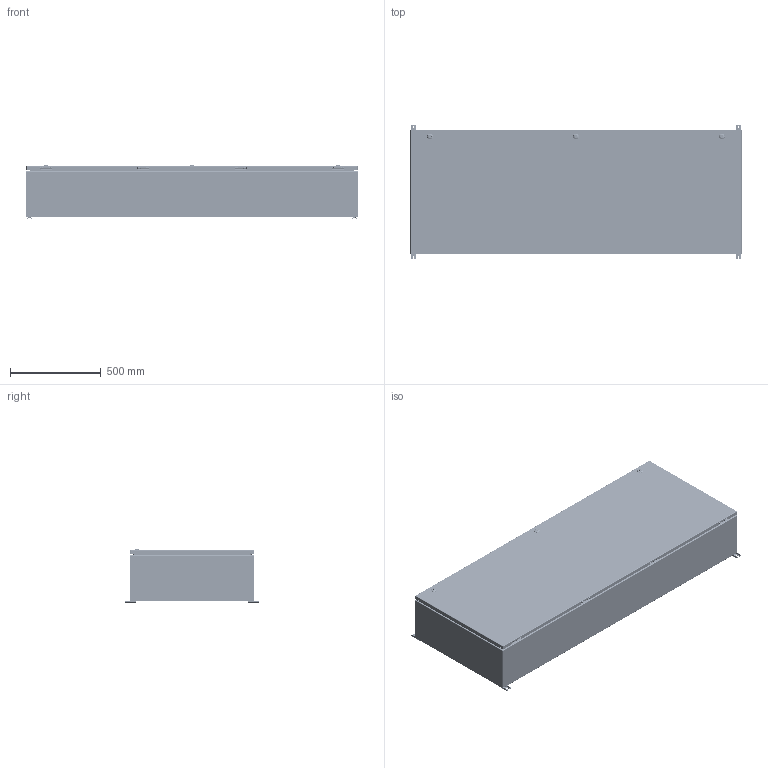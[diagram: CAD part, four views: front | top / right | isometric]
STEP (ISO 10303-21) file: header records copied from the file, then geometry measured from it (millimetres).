
FILE_DESCRIPTION(/* description */ ('1412BTCU 1600A - 3 Wires x 72" Assembly'),/* implementation_level */ '2;1');
FILE_NAME(/* name */ 'C:\Vault_Workspace\Inventor_Dwg\BoxCad\Result\1412BTCU061603\e-mail\3D\1412BTCU061603.stp',/* time_stamp */ '2022-09-19T15:59:18-04:00',/* author */ ('BoxCad'),/* organization */ (''),/* preprocessor_version */ 'ST-DEVELOPER v18.1',/* originating_system */ 'Autodesk Inventor 2020',/* authorisation */ '');
FILE_SCHEMA (('AUTOMOTIVE_DESIGN { 1 0 10303 214 3 1 1 }'));
Products named in the file (51): 1412BTCU061603; 1412BTCU061603B; 1412BTCU061603B-P; STK-Q-16005; 1412BTCU061603C; 1412BTCU061603C-P; 1412BTCU061603G; STK-Q-16080; STK-K-09800; STK-Q-33014; STK-Q-90398; STK-Q-40095; STK-Q-63410; STK-S-00100; STK-P-02400S; STK-A-880SCQ4-SL-1; STK-A-880SCQ4-SL-2; STK-A-880SCQ4-SL-3; STK-Q-78110; STK-Q-78120; STK-Q-78145; STK-Q-03200; STK-Q-78125; STK-Q-78141; STK-Q-90390; STK-Q-78160; 1412BTCU061603IP1; 1412BTCU061603IP1-P; STK-P-02401S; STK-Q-07610; STK-A-67400; STK-Q-67400; STK-G-22300; STK-Q-67420; STK-Q-40800; STK-Q-67430; STK-Q-07310; 1412BTCU061603BAR1-P; 1412BTCU061603BAR2-P; 1412BTCU061603BAR3-P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
Assembly tree (121 placements, depth 4):
  1412BTCU061603
    1412BTCU061603B
      1412BTCU061603B-P
      STK-Q-16080
      STK-Q-16005  x8
      STK-S-00100
      STK-P-02400S
    1412BTCU061603C
      1412BTCU061603C-P
      1412BTCU061603G
      STK-Q-16080
      STK-K-09800  x4
        STK-Q-33014
        STK-Q-90398
        STK-Q-40095
        STK-Q-63410
      STK-S-00100
      STK-P-02400S
      STK-A-880SCQ4-SL-1
        STK-Q-78110
        STK-Q-78120
        STK-Q-78145
        STK-Q-03200
        STK-Q-78125
        STK-Q-78141
        STK-Q-90390
        STK-Q-78160
      STK-A-880SCQ4-SL-2
        STK-Q-78110
        STK-Q-78120
        STK-Q-78145
        STK-Q-03200
        STK-Q-78125
        STK-Q-78141
        STK-Q-90390
        STK-Q-78160
      STK-A-880SCQ4-SL-3
        STK-Q-78110
        STK-Q-78120
        STK-Q-78145
        STK-Q-03200
        STK-Q-78125
        STK-Q-78141
        STK-Q-90390
        STK-Q-78160
    1412BTCU061603IP1
      1412BTCU061603IP1-P
      STK-P-02401S
    STK-Q-07610  x6
    STK-Q-07310  x15
    STK-A-67400  x9
      STK-Q-67400
      STK-G-22300
      STK-Q-67420
      STK-Q-40800
      STK-Q-67430
    1412BTCU061603BAR1-P
    1412BTCU061603BAR2-P
    1412BTCU061603BAR3-P
    1412BTCU061603MF
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Bounding box: 1828.8 x 742.95 x 294.2 mm (x, y, z)
Volume: 14766567.1 mm3; surface area: 11205464.9 mm2
Topology: 175 solids, 175 shells, 25385 faces, 66557 edges, 41466 vertices
Faces by surface type: plane 8812, bspline 7089, cylinder 6595, torus 1958, sphere 566, cone 365
Full cylindrical faces by diameter (mm): 0.75 x10, 0.762 x10, 1 x16, 1.1 x16, 3.2 x8, 4.5 x36, 4.521 x16, 4.85 x32, 4.95 x8, 5.1 x37, 5.6 x4, 5.9 x78, 6.65 x17, 6.85 x60, 7.3 x4, 7.366 x4, 7.8 x369, 7.9 x8, 8 x28, 8.25 x18, 8.382 x4, 8.6 x12, 9.6 x3, 9.7 x48, 9.906 x4, 10 x3, 10.312 x2, 11.5 x18, 12 x13, 12.7 x2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
Entity records: 196503 total; most frequent: CARTESIAN_POINT 78845, ORIENTED_EDGE 26046, DIRECTION 21003, EDGE_CURVE 13023, VERTEX_POINT 8239, AXIS2_PLACEMENT_3D 7382, LINE 6239, VECTOR 6239
